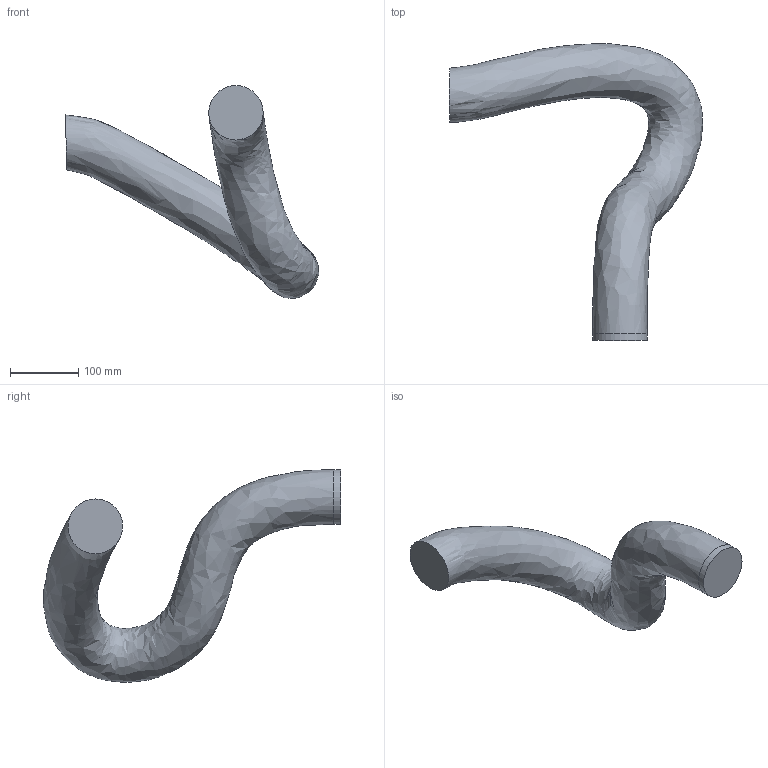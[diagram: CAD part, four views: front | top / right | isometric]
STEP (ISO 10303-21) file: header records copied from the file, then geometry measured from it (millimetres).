
FILE_DESCRIPTION (( 'STEP AP214' ), '1' );
FILE_NAME ('IRB6740-LID_270kg-280_OC_00_LINK05_CABLE.step', '2026-05-07T13:15:03', ( '' ), ( '' ), 'SwSTEP 2.0', 'SolidWorks 2024', '' );
FILE_SCHEMA (( 'AUTOMOTIVE_DESIGN' ));
Length unit declared in the file: millimetre
Products named in the file (1): IRB6740-LID_270kg-280_OC_00_LINK05_CABLE
Bounding box: 372.08 x 436.48 x 312.75 mm (x, y, z)
Volume: 4402031.7 mm3; surface area: 230452.3 mm2
Topology: 1 solids, 1 shells, 4 faces, 7 edges, 5 vertices
Faces by surface type: plane 2, cylinder 1, bspline 1
Full cylindrical faces by diameter (mm): 80 x1
Entity records: 1037 total; most frequent: CARTESIAN_POINT 914, DIRECTION 12, FACE_OUTER_BOUND 6, EDGE_LOOP 6, UNCERTAINTY_MEASURE_WITH_UNIT 6, ORIENTED_EDGE 6, AXIS2_PLACEMENT_3D 6, MECHANICAL_DESIGN_GEOMETRIC_PRESENTATION_REPRESENTATION 5
